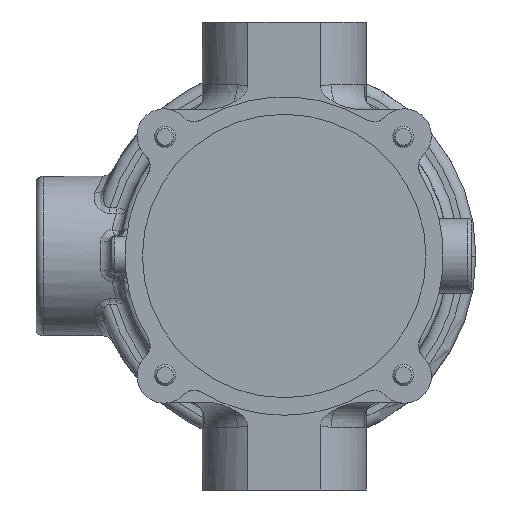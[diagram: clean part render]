
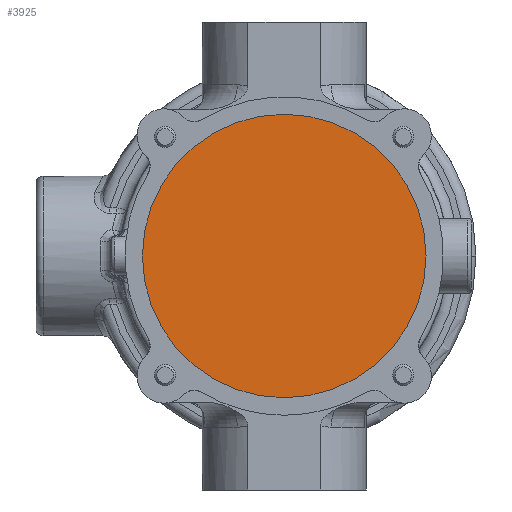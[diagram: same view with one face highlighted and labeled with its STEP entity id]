
A CAD part, front view. The second image highlights one B-rep face of the part: STEP entity #3925.
In plain terms, the highlighted planar face has unit normal (0, -1, 0).
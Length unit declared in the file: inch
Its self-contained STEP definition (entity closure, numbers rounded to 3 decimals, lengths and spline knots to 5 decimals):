
#1500 = AXIS2_PLACEMENT_3D ( 'NONE', #35962, #10109, #21610 ) ;
#3454 = EDGE_CURVE ( 'Defeatured_0_643+Defeatured_0_638+Defeatured_0_638+Defeatured_0_638', #35811, #31900, #17762, .T. ) ;
#3925 = ADVANCED_FACE ( 'Defeatured_0_638', ( #37371 ), #11516, .F. ) ;
#5566 = DIRECTION ( 'NONE',  ( 0., 1., 0. ) ) ;
#6870 = AXIS2_PLACEMENT_3D ( 'NONE', #23031, #34551, #8710 ) ;
#7235 = CARTESIAN_POINT ( 'NONE',  ( -2.4995, -2., 0. ) ) ;
#8710 = DIRECTION ( 'NONE',  ( 0., 0., 1. ) ) ;
#10109 = DIRECTION ( 'NONE',  ( 0., 1., 0. ) ) ;
#11516 = PLANE ( 'NONE',  #6870 ) ;
#12781 = ORIENTED_EDGE ( 'NONE', *, *, #24263, .F. ) ;
#15704 = CIRCLE ( 'NONE', #36800, 2.4995 ) ;
#17076 = DIRECTION ( 'NONE',  ( -1., 0., 0. ) ) ;
#17762 = CIRCLE ( 'NONE', #1500, 2.4995 ) ;
#17874 = EDGE_LOOP ( 'NONE', ( #12781, #35574 ) ) ;
#21610 = DIRECTION ( 'NONE',  ( -1., 0., 0. ) ) ;
#23031 = CARTESIAN_POINT ( 'NONE',  ( 0., -2., -2.74567 ) ) ;
#24263 = EDGE_CURVE ( 'Defeatured_0_643+Defeatured_0_638+Defeatured_0_638+Defeatured_0_638', #31900, #35811, #15704, .T. ) ;
#31230 = CARTESIAN_POINT ( 'NONE',  ( 2.4995, -2., 0. ) ) ;
#31422 = CARTESIAN_POINT ( 'NONE',  ( 0., -2., 0. ) ) ;
#31900 = VERTEX_POINT ( 'NONE', #7235 ) ;
#34551 = DIRECTION ( 'NONE',  ( 0., 1., 0. ) ) ;
#35574 = ORIENTED_EDGE ( 'NONE', *, *, #3454, .F. ) ;
#35811 = VERTEX_POINT ( 'NONE', #31230 ) ;
#35962 = CARTESIAN_POINT ( 'NONE',  ( 0., -2., 0. ) ) ;
#36800 = AXIS2_PLACEMENT_3D ( 'NONE', #31422, #5566, #17076 ) ;
#37371 = FACE_OUTER_BOUND ( 'NONE', #17874, .T. ) ;
